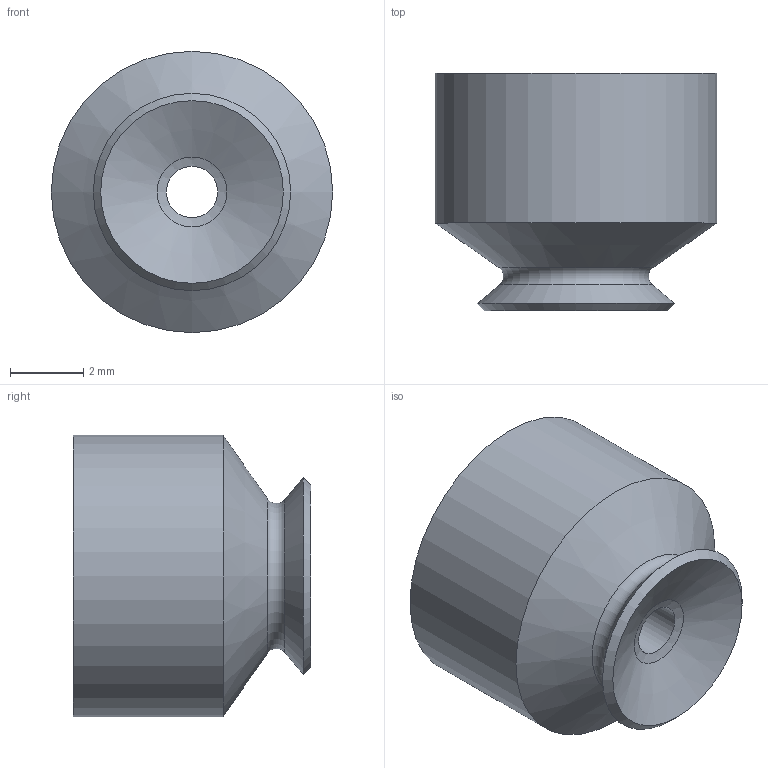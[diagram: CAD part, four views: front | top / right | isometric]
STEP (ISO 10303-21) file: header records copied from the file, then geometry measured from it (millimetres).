
FILE_DESCRIPTION(('STEP AP203'),'1');
FILE_NAME('_3D.stp','2024-06-11T23:25:44',(' '),(' '),'Spatial InterOp 3D',' ',' ');
FILE_SCHEMA(('CONFIG_CONTROL_DESIGN'));
Length unit declared in the file: millimetre
Products named in the file (1): 1
Bounding box: 7.7 x 6.5 x 7.7 mm (x, y, z)
Volume: 154.8 mm3; surface area: 319.6 mm2
Topology: 1 solids, 1 shells, 18 faces, 41 edges, 26 vertices
Faces by surface type: torus 6, cylinder 4, cone 4, plane 3, bspline 1
Full cylindrical faces by diameter (mm): 1.4 x1, 4 x1, 6 x1, 7.7 x1
Entity records: 435 total; most frequent: CARTESIAN_POINT 82, DIRECTION 72, AXIS2_PLACEMENT_3D 36, EDGE_LOOP 36, ORIENTED_EDGE 36, FACE_OUTER_BOUND 29, ADVANCED_FACE 18, EDGE_CURVE 18
